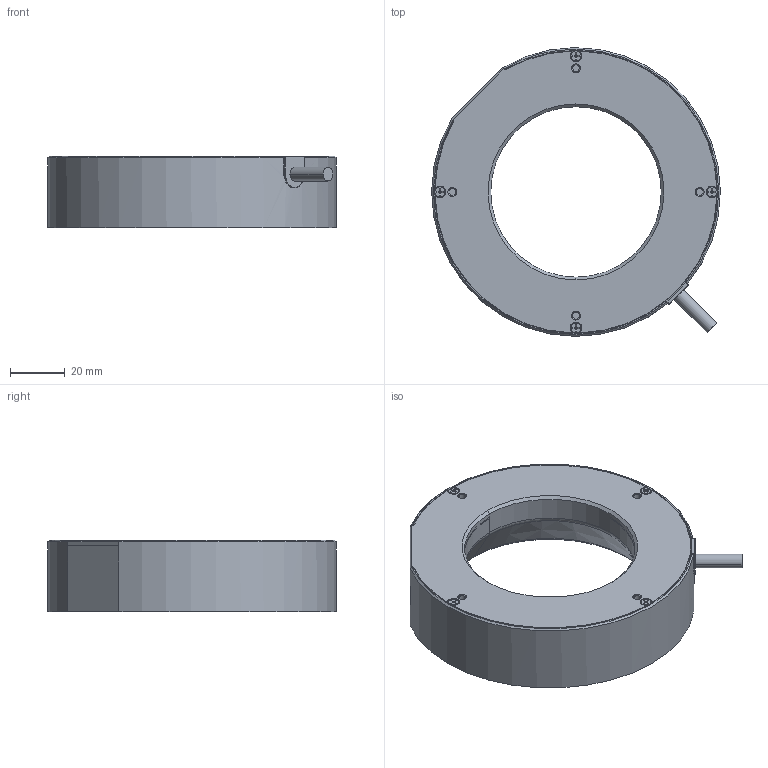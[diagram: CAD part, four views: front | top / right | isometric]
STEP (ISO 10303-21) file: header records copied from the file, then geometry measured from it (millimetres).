
FILE_DESCRIPTION((''),'2;1');
FILE_NAME('MV-LRDS-H-105-30-W','2022-09-02T15:13:17',('qiaoxuan5'),(''),'CREO PARAMETRIC BY PTC INC, 2020044','CREO PARAMETRIC BY PTC INC, 2020044','');
FILE_SCHEMA(('CONFIG_CONTROL_DESIGN'));
Length unit declared in the file: metre
Products named in the file (1): MV-LRDS-H-105-30-W
Bounding box: 105 x 105 x 26 mm (x, y, z)
Volume: 128706.8 mm3; surface area: 39137.2 mm2
Topology: 1 solids, 14 shells, 524 faces, 1260 edges, 745 vertices
Faces by surface type: plane 260, cylinder 152, cone 82, torus 24, sphere 6
Entity records: 15268 total; most frequent: CARTESIAN_POINT 3071, DIRECTION 2605, ORIENTED_EDGE 2476, EDGE_CURVE 1238, AXIS2_PLACEMENT_3D 940, VERTEX_POINT 745, VECTOR 725, LINE 725
